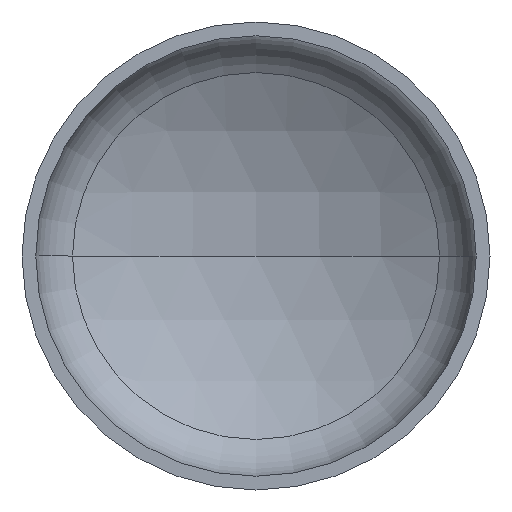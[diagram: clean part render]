
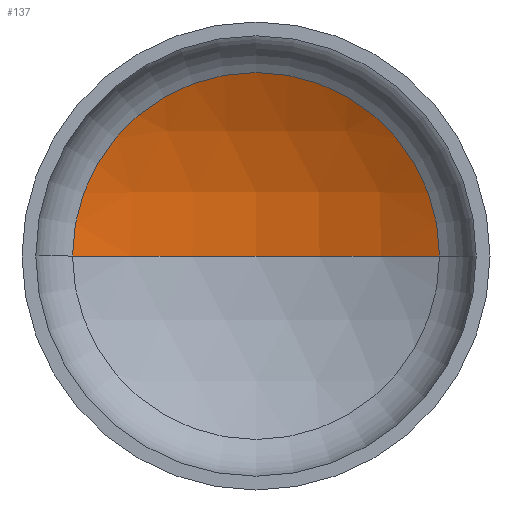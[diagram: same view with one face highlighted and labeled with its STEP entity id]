
A CAD part, front view. The second image highlights one B-rep face of the part: STEP entity #137.
In plain terms, the highlighted spherical face has radius 3040 mm.
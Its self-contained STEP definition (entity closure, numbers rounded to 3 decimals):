
#41 = ORIENTED_EDGE ( 'NONE', *, *, #120, .T. ) ;
#54 = VERTEX_POINT ( 'NONE', #283 ) ;
#55 = AXIS2_PLACEMENT_3D ( 'NONE', #173, #191, #376 ) ;
#57 = VERTEX_POINT ( 'NONE', #289 ) ;
#60 = AXIS2_PLACEMENT_3D ( 'NONE', #161, #168, #349 ) ;
#68 = AXIS2_PLACEMENT_3D ( 'NONE', #221, #286, #248 ) ;
#71 = AXIS2_PLACEMENT_3D ( 'NONE', #194, #171, #172 ) ;
#110 = EDGE_CURVE ( 'NONE', #159, #54, #116, .T. ) ;
#116 = CIRCLE ( 'NONE', #71, 1489.662 ) ;
#118 = ORIENTED_EDGE ( 'NONE', *, *, #126, .F. ) ;
#120 = EDGE_CURVE ( 'NONE', #57, #159, #305, .T. ) ;
#123 = CARTESIAN_POINT ( 'NONE',  ( 1489.662, 584.951, 0. ) ) ;
#126 = EDGE_CURVE ( 'NONE', #57, #54, #243, .T. ) ;
#137 = ADVANCED_FACE ( 'NONE', ( #181 ), #374, .F. ) ;
#159 = VERTEX_POINT ( 'NONE', #123 ) ;
#161 = CARTESIAN_POINT ( 'NONE',  ( 0., -2065.05, 0. ) ) ;
#168 = DIRECTION ( 'NONE',  ( 0., 0., 1. ) ) ;
#171 = DIRECTION ( 'NONE',  ( 0., -1., 0. ) ) ;
#172 = DIRECTION ( 'NONE',  ( 1., 0., 0. ) ) ;
#173 = CARTESIAN_POINT ( 'NONE',  ( 0., -2065.05, 0. ) ) ;
#181 = FACE_OUTER_BOUND ( 'NONE', #278, .T. ) ;
#191 = DIRECTION ( 'NONE',  ( 0., 0., -1. ) ) ;
#194 = CARTESIAN_POINT ( 'NONE',  ( 0., 584.951, 0. ) ) ;
#221 = CARTESIAN_POINT ( 'NONE',  ( 0., -2065.05, 0. ) ) ;
#243 = CIRCLE ( 'NONE', #60, 3040. ) ;
#248 = DIRECTION ( 'NONE',  ( -1., 0., 0. ) ) ;
#278 = EDGE_LOOP ( 'NONE', ( #118, #41, #301 ) ) ;
#283 = CARTESIAN_POINT ( 'NONE',  ( -1489.662, 584.951, 0. ) ) ;
#286 = DIRECTION ( 'NONE',  ( 0., 0., -1. ) ) ;
#289 = CARTESIAN_POINT ( 'NONE',  ( 0., 974.95, 0. ) ) ;
#301 = ORIENTED_EDGE ( 'NONE', *, *, #110, .T. ) ;
#305 = CIRCLE ( 'NONE', #68, 3040. ) ;
#349 = DIRECTION ( 'NONE',  ( 1., 0., 0. ) ) ;
#374 = SPHERICAL_SURFACE ( 'NONE', #55, 3040. ) ;
#376 = DIRECTION ( 'NONE',  ( -1., 0., 0. ) ) ;
